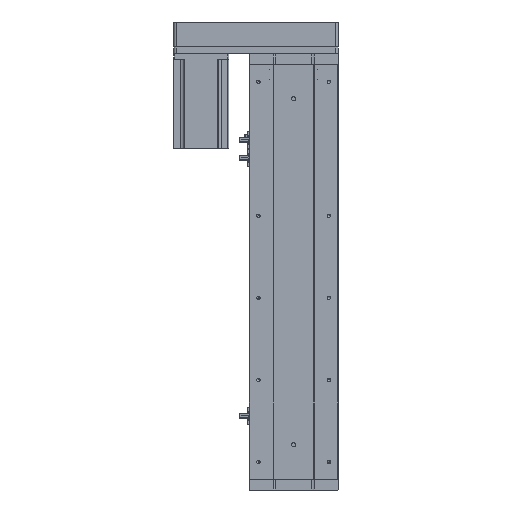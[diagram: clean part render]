
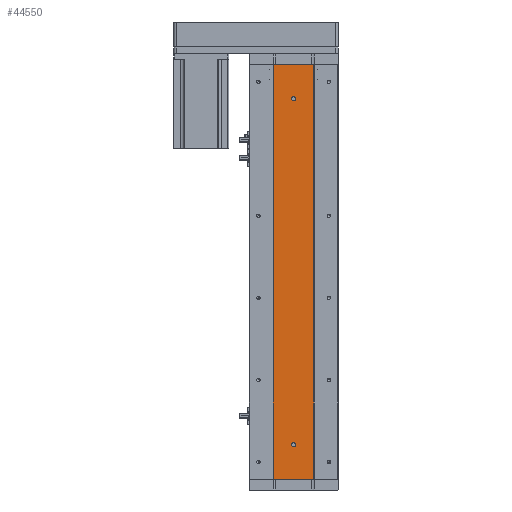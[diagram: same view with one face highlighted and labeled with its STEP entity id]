
A CAD part, left-side view. The second image highlights one B-rep face of the part: STEP entity #44550.
In plain terms, the highlighted planar face has unit normal (-1, 0, 0).
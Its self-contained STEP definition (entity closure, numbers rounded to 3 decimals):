
#130 = CIRCLE ( 'NONE', #15071, 3. ) ;
#289 = ORIENTED_EDGE ( 'NONE', *, *, #44175, .T. ) ;
#588 = EDGE_CURVE ( 'NONE', #6277, #23219, #41688, .T. ) ;
#1865 = LINE ( 'NONE', #40325, #20281 ) ;
#2223 = DIRECTION ( 'NONE',  ( 0., 0., -1. ) ) ;
#2936 = ORIENTED_EDGE ( 'NONE', *, *, #17500, .F. ) ;
#3054 = CARTESIAN_POINT ( 'NONE',  ( -24.994, 29.785, 606. ) ) ;
#3588 = EDGE_CURVE ( 'NONE', #38112, #38010, #130, .T. ) ;
#4237 = CARTESIAN_POINT ( 'NONE',  ( -24.994, 0., 556. ) ) ;
#4241 = LINE ( 'NONE', #20199, #30781 ) ;
#4297 = CARTESIAN_POINT ( 'NONE',  ( -24.994, 0., 53. ) ) ;
#4720 = PLANE ( 'NONE',  #5030 ) ;
#5030 = AXIS2_PLACEMENT_3D ( 'NONE', #18782, #42971, #22314 ) ;
#5941 = EDGE_CURVE ( 'NONE', #7967, #41723, #12211, .T. ) ;
#6277 = VERTEX_POINT ( 'NONE', #10677 ) ;
#6613 = AXIS2_PLACEMENT_3D ( 'NONE', #15941, #40115, #19401 ) ;
#7743 = DIRECTION ( 'NONE',  ( 0., 0., 1. ) ) ;
#7818 = VECTOR ( 'NONE', #23792, 1000. ) ;
#7967 = VERTEX_POINT ( 'NONE', #4297 ) ;
#9964 = LINE ( 'NONE', #3054, #7818 ) ;
#10430 = CIRCLE ( 'NONE', #38042, 3. ) ;
#10677 = CARTESIAN_POINT ( 'NONE',  ( -24.994, 29.785, 606. ) ) ;
#11053 = EDGE_CURVE ( 'NONE', #38010, #38112, #10430, .T. ) ;
#12211 = CIRCLE ( 'NONE', #13740, 3. ) ;
#12590 = ORIENTED_EDGE ( 'NONE', *, *, #3588, .F. ) ;
#12784 = ORIENTED_EDGE ( 'NONE', *, *, #22937, .F. ) ;
#13740 = AXIS2_PLACEMENT_3D ( 'NONE', #35364, #14674, #38862 ) ;
#14087 = VECTOR ( 'NONE', #32909, 1000. ) ;
#14674 = DIRECTION ( 'NONE',  ( -1., 0., 0. ) ) ;
#15071 = AXIS2_PLACEMENT_3D ( 'NONE', #37148, #16455, #40621 ) ;
#15825 = CARTESIAN_POINT ( 'NONE',  ( -24.994, 29.785, 606. ) ) ;
#15941 = CARTESIAN_POINT ( 'NONE',  ( -24.994, 0., 50. ) ) ;
#16455 = DIRECTION ( 'NONE',  ( -1., 0., 0. ) ) ;
#16772 = CIRCLE ( 'NONE', #6613, 3. ) ;
#17500 = EDGE_CURVE ( 'NONE', #35188, #39313, #1865, .T. ) ;
#18782 = CARTESIAN_POINT ( 'NONE',  ( -24.994, 29.785, 606. ) ) ;
#19401 = DIRECTION ( 'NONE',  ( 0., 0., 1. ) ) ;
#19816 = ORIENTED_EDGE ( 'NONE', *, *, #11053, .F. ) ;
#20199 = CARTESIAN_POINT ( 'NONE',  ( -24.994, 29.785, 0. ) ) ;
#20281 = VECTOR ( 'NONE', #2223, 1000. ) ;
#22314 = DIRECTION ( 'NONE',  ( 0., 0., -1. ) ) ;
#22937 = EDGE_CURVE ( 'NONE', #41723, #7967, #16772, .T. ) ;
#23219 = VERTEX_POINT ( 'NONE', #34504 ) ;
#23683 = DIRECTION ( 'NONE',  ( 0., -1., 0. ) ) ;
#23792 = DIRECTION ( 'NONE',  ( 0., -1., 0. ) ) ;
#24738 = EDGE_LOOP ( 'NONE', ( #12590, #19816 ) ) ;
#25327 = FACE_OUTER_BOUND ( 'NONE', #41588, .T. ) ;
#26401 = FACE_BOUND ( 'NONE', #24738, .T. ) ;
#28451 = DIRECTION ( 'NONE',  ( -1., 0., 0. ) ) ;
#28652 = CARTESIAN_POINT ( 'NONE',  ( -24.994, -29.785, 606. ) ) ;
#30453 = CARTESIAN_POINT ( 'NONE',  ( -24.994, 0., 47. ) ) ;
#30781 = VECTOR ( 'NONE', #23683, 1000. ) ;
#31808 = ORIENTED_EDGE ( 'NONE', *, *, #5941, .F. ) ;
#32909 = DIRECTION ( 'NONE',  ( 0., 0., -1. ) ) ;
#33146 = ORIENTED_EDGE ( 'NONE', *, *, #588, .T. ) ;
#34504 = CARTESIAN_POINT ( 'NONE',  ( -24.994, 29.785, 0. ) ) ;
#35188 = VERTEX_POINT ( 'NONE', #28652 ) ;
#35364 = CARTESIAN_POINT ( 'NONE',  ( -24.994, 0., 50. ) ) ;
#37148 = CARTESIAN_POINT ( 'NONE',  ( -24.994, 0., 556. ) ) ;
#37606 = EDGE_LOOP ( 'NONE', ( #31808, #12784 ) ) ;
#38010 = VERTEX_POINT ( 'NONE', #40112 ) ;
#38042 = AXIS2_PLACEMENT_3D ( 'NONE', #4237, #28451, #7743 ) ;
#38112 = VERTEX_POINT ( 'NONE', #44167 ) ;
#38383 = ORIENTED_EDGE ( 'NONE', *, *, #41778, .F. ) ;
#38862 = DIRECTION ( 'NONE',  ( 0., 0., 1. ) ) ;
#39313 = VERTEX_POINT ( 'NONE', #42988 ) ;
#40112 = CARTESIAN_POINT ( 'NONE',  ( -24.994, 0., 553. ) ) ;
#40115 = DIRECTION ( 'NONE',  ( -1., 0., 0. ) ) ;
#40325 = CARTESIAN_POINT ( 'NONE',  ( -24.994, -29.785, 606. ) ) ;
#40621 = DIRECTION ( 'NONE',  ( 0., 0., 1. ) ) ;
#41588 = EDGE_LOOP ( 'NONE', ( #289, #2936, #38383, #33146 ) ) ;
#41688 = LINE ( 'NONE', #15825, #14087 ) ;
#41723 = VERTEX_POINT ( 'NONE', #30453 ) ;
#41778 = EDGE_CURVE ( 'NONE', #6277, #35188, #9964, .T. ) ;
#42605 = FACE_BOUND ( 'NONE', #37606, .T. ) ;
#42971 = DIRECTION ( 'NONE',  ( 1., 0., 0. ) ) ;
#42988 = CARTESIAN_POINT ( 'NONE',  ( -24.994, -29.785, 0. ) ) ;
#44167 = CARTESIAN_POINT ( 'NONE',  ( -24.994, 0., 559. ) ) ;
#44175 = EDGE_CURVE ( 'NONE', #23219, #39313, #4241, .T. ) ;
#44550 = ADVANCED_FACE ( 'NONE', ( #26401, #42605, #25327 ), #4720, .F. ) ;
